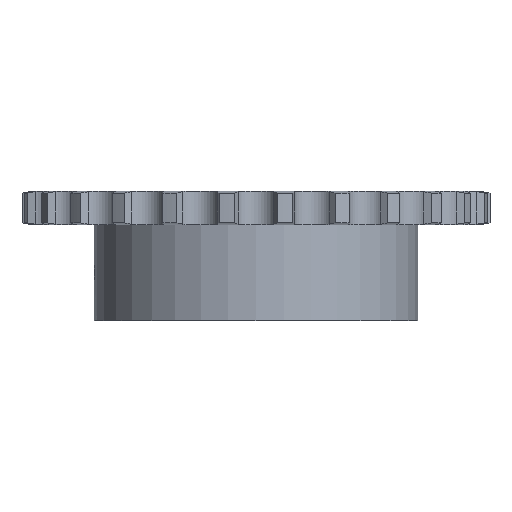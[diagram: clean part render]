
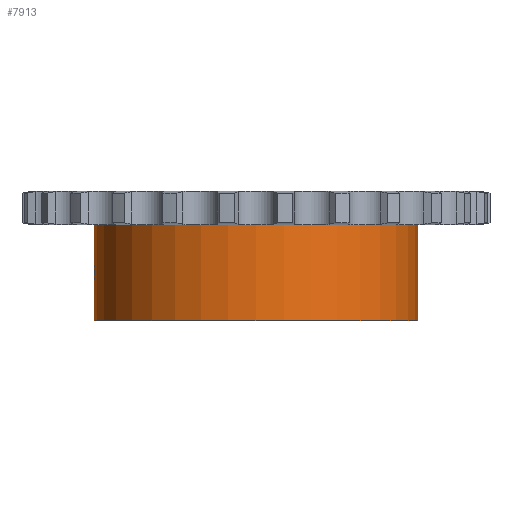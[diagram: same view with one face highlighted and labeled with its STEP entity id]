
A CAD part, front view. The second image highlights one B-rep face of the part: STEP entity #7913.
In plain terms, the highlighted cylindrical face has radius 35 mm (diameter 70 mm), a partial arc.
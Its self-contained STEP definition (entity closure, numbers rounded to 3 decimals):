
#1373=CARTESIAN_POINT('',(0.,0.,-3.6));
#1374=DIRECTION('',(0.,0.,1.));
#1375=DIRECTION('',(-1.,0.,0.));
#1376=AXIS2_PLACEMENT_3D('',#1373,#1374,#1375);
#4073=CARTESIAN_POINT('',(-35.,0.,
-12.));
#4095=DIRECTION('',(0.,0.,1.));
#4096=VECTOR('',#4095,20.8);
#4097=CARTESIAN_POINT('',(35.,0.,-24.4));
#4098=LINE('',#4097,#4096);
#4213=CARTESIAN_POINT('',(0.,0.,-24.4));
#4214=DIRECTION('',(0.,0.,-1.));
#4215=DIRECTION('',(1.,0.,0.));
#4216=AXIS2_PLACEMENT_3D('',#4213,#4214,#4215);
#4242=CARTESIAN_POINT('',(-35.,0.,
-12.));
#4243=CARTESIAN_POINT('',(-35.,-0.105,
-12.));
#4244=CARTESIAN_POINT('',(-34.999,-0.313,
-12.016));
#4245=CARTESIAN_POINT('',(-34.995,-0.627,
-12.09));
#4246=CARTESIAN_POINT('',(-34.988,-0.926,
-12.213));
#4247=CARTESIAN_POINT('',(-34.98,-1.198,
-12.38));
#4248=CARTESIAN_POINT('',(-34.971,-1.439,
-12.585));
#4249=CARTESIAN_POINT('',(-34.961,-1.645,
-12.825));
#4250=CARTESIAN_POINT('',(-34.953,-1.812,
-13.097));
#4251=CARTESIAN_POINT('',(-34.947,-1.933,
-13.391));
#4252=CARTESIAN_POINT('',(-34.943,-2.005,
-13.697));
#4253=CARTESIAN_POINT('',(-34.942,-2.02,
-13.899));
#4254=CARTESIAN_POINT('',(-34.942,-2.02,
-14.));
#4259=DIRECTION('',(0.,0.,1.));
#4260=VECTOR('',#4259,8.4);
#4261=CARTESIAN_POINT('',(-35.,0.,
-12.));
#4262=LINE('',#4261,#4260);
#4266=DIRECTION('',(0.,0.,1.));
#4267=VECTOR('',#4266,8.4);
#4268=CARTESIAN_POINT('',(-35.,0.,-24.4));
#4269=LINE('',#4268,#4267);
#4273=CARTESIAN_POINT('',(-34.942,-2.02,
-14.));
#4274=CARTESIAN_POINT('',(-34.942,-2.02,
-14.101));
#4275=CARTESIAN_POINT('',(-34.943,-2.005,
-14.302));
#4276=CARTESIAN_POINT('',(-34.947,-1.934,
-14.608));
#4277=CARTESIAN_POINT('',(-34.953,-1.813,
-14.902));
#4278=CARTESIAN_POINT('',(-34.961,-1.646,
-15.174));
#4279=CARTESIAN_POINT('',(-34.971,-1.44,
-15.415));
#4280=CARTESIAN_POINT('',(-34.98,-1.199,
-15.62));
#4281=CARTESIAN_POINT('',(-34.988,-0.926,
-15.787));
#4282=CARTESIAN_POINT('',(-34.995,-0.628,
-15.91));
#4283=CARTESIAN_POINT('',(-34.999,-0.314,
-15.984));
#4284=CARTESIAN_POINT('',(-35.,-0.105,
-16.));
#4285=CARTESIAN_POINT('',(-35.,0.,
-16.));
#4693=CARTESIAN_POINT('',(-35.,0.,-24.4));
#4694=CARTESIAN_POINT('',(35.,0.,-24.4));
#4695=VERTEX_POINT('',#4693);
#4696=VERTEX_POINT('',#4694);
#4697=CARTESIAN_POINT('',(35.,0.,-3.6));
#4698=VERTEX_POINT('',#4697);
#4699=CARTESIAN_POINT('',(-35.,0.,-3.6));
#4700=VERTEX_POINT('',#4699);
#4980=VERTEX_POINT('',#4073);
#4983=VERTEX_POINT('',#4254);
#4985=VERTEX_POINT('',#4285);
#7897=CARTESIAN_POINT('',(0.,0.,3.6));
#7898=DIRECTION('',(0.,0.,1.));
#7899=DIRECTION('',(1.,0.,0.));
#7900=AXIS2_PLACEMENT_3D('',#7897,#7898,#7899);
#7901=CYLINDRICAL_SURFACE('',#7900,35.);
#7903=ORIENTED_EDGE('',*,*,#7902,.F.);
#7904=ORIENTED_EDGE('',*,*,#7623,.T.);
#7905=ORIENTED_EDGE('',*,*,#6412,.T.);
#7906=ORIENTED_EDGE('',*,*,#7620,.F.);
#7907=ORIENTED_EDGE('',*,*,#7883,.T.);
#7908=ORIENTED_EDGE('',*,*,#7616,.T.);
#7910=ORIENTED_EDGE('',*,*,#7909,.F.);
#7911=EDGE_LOOP('',(#7903,#7904,#7905,#7906,#7907,#7908,#7910));
#7912=FACE_OUTER_BOUND('',#7911,.F.);
#7913=ADVANCED_FACE('',(#7912),#7901,.T.);
#1377=CIRCLE('',#1376,35.);
#4217=CIRCLE('',#4216,35.);
#4255=B_SPLINE_CURVE_WITH_KNOTS('',3,(#4242,#4243,#4244,#4245,#4246,#4247,#4248,
#4249,#4250,#4251,#4252,#4253,#4254),.UNSPECIFIED.,.F.,.F.,(4,1,1,1,1,1,1,1,1,1,
4),(0.,0.1,0.2,0.3,0.4,0.5,0.6,0.7,0.8,0.9,1.),
.UNSPECIFIED.);
#4286=B_SPLINE_CURVE_WITH_KNOTS('',3,(#4273,#4274,#4275,#4276,#4277,#4278,#4279,
#4280,#4281,#4282,#4283,#4284,#4285),.UNSPECIFIED.,.F.,.F.,(4,1,1,1,1,1,1,1,1,1,
4),(0.,0.1,0.2,0.3,0.4,0.5,0.6,0.7,0.8,0.9,1.),
.UNSPECIFIED.);
#6412=EDGE_CURVE('',#4700,#4698,#1377,.T.);
#7616=EDGE_CURVE('',#4695,#4985,#4269,.T.);
#7620=EDGE_CURVE('',#4696,#4698,#4098,.T.);
#7623=EDGE_CURVE('',#4980,#4700,#4262,.T.);
#7883=EDGE_CURVE('',#4696,#4695,#4217,.T.);
#7902=EDGE_CURVE('',#4980,#4983,#4255,.T.);
#7909=EDGE_CURVE('',#4983,#4985,#4286,.T.);
